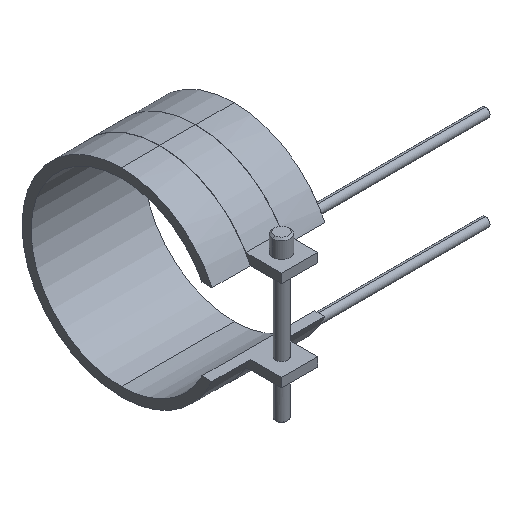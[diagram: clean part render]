
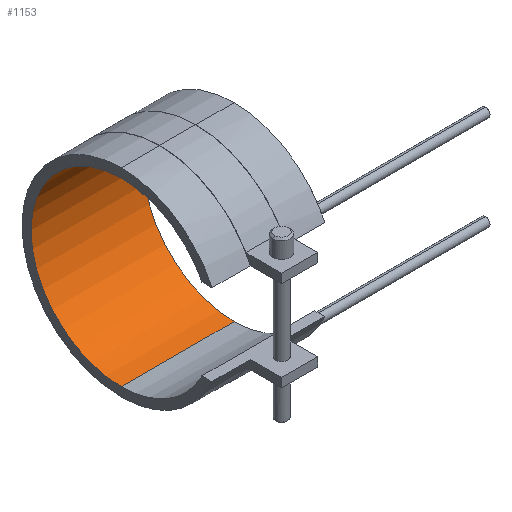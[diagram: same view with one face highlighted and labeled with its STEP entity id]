
A CAD part, isometric view. The second image highlights one B-rep face of the part: STEP entity #1153.
In plain terms, the highlighted cylindrical face has radius 40 mm (diameter 80 mm), a partial arc.
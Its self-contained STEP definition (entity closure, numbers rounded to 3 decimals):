
#834=CARTESIAN_POINT('Vertex',(-25.,0.,-40.)) ;
#841=CARTESIAN_POINT('Vertex',(25.,0.,-40.)) ;
#844=CARTESIAN_POINT('Line Origine',(25.,0.,-40.)) ;
#862=CARTESIAN_POINT('Axis2P3D Location',(-25.,0.,0.)) ;
#866=CARTESIAN_POINT('Vertex',(-25.,0.,40.)) ;
#923=CARTESIAN_POINT('Vertex',(25.,0.,40.)) ;
#933=CARTESIAN_POINT('Line Origine',(25.,0.,40.)) ;
#1024=CARTESIAN_POINT('Axis2P3D Location',(25.,0.,0.)) ;
#1142=CARTESIAN_POINT('Axis2P3D Location',(25.,0.,0.)) ;
#845=DIRECTION('Vector Direction',(1.,0.,0.)) ;
#863=DIRECTION('Axis2P3D Direction',(1.,0.,0.)) ;
#934=DIRECTION('Vector Direction',(1.,0.,0.)) ;
#1025=DIRECTION('Axis2P3D Direction',(1.,0.,0.)) ;
#1143=DIRECTION('Axis2P3D Direction',(1.,0.,-0.)) ;
#1144=DIRECTION('Axis2P3D XDirection',(0.,0.,-1.)) ;
#864=AXIS2_PLACEMENT_3D('Circle Axis2P3D',#862,#863,$) ;
#1026=AXIS2_PLACEMENT_3D('Circle Axis2P3D',#1024,#1025,$) ;
#1145=AXIS2_PLACEMENT_3D('Cylinder Axis2P3D',#1142,#1143,#1144) ;
#1148=ORIENTED_EDGE('',*,*,#1028,.T.) ;
#1149=ORIENTED_EDGE('',*,*,#937,.T.) ;
#1150=ORIENTED_EDGE('',*,*,#868,.F.) ;
#1151=ORIENTED_EDGE('',*,*,#848,.T.) ;
#846=VECTOR('Line Direction',#845,1.) ;
#935=VECTOR('Line Direction',#934,1.) ;
#1153=ADVANCED_FACE('14080050',(#1152),#1146,.F.) ;
#865=CIRCLE('generated circle',#864,40.) ;
#1027=CIRCLE('generated circle',#1026,40.) ;
#1146=CYLINDRICAL_SURFACE('generated cylinder',#1145,40.) ;
#848=EDGE_CURVE('',#835,#842,#847,.T.) ;
#868=EDGE_CURVE('',#835,#867,#865,.T.) ;
#937=EDGE_CURVE('',#924,#867,#936,.F.) ;
#1028=EDGE_CURVE('',#842,#924,#1027,.T.) ;
#1147=EDGE_LOOP('',(#1148,#1149,#1150,#1151)) ;
#1152=FACE_OUTER_BOUND('',#1147,.T.) ;
#847=LINE('Line',#844,#846) ;
#936=LINE('Line',#933,#935) ;
#835=VERTEX_POINT('',#834) ;
#842=VERTEX_POINT('',#841) ;
#867=VERTEX_POINT('',#866) ;
#924=VERTEX_POINT('',#923) ;
